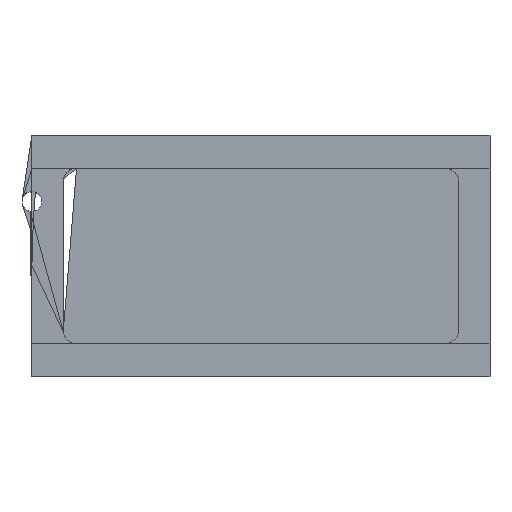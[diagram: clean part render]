
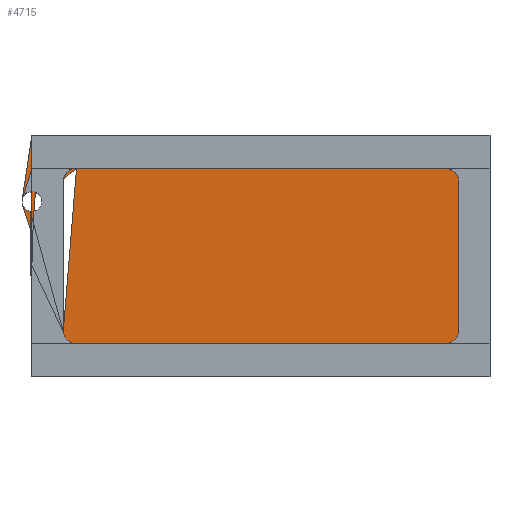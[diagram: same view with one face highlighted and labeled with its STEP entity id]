
A CAD part, top view. The second image highlights one B-rep face of the part: STEP entity #4715.
In plain terms, the highlighted planar face has unit normal (0, 0, 1) as drawn and (0, 0, -1) by its records, which use the part's own axes.
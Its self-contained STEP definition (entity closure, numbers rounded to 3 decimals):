
#4292 = CARTESIAN_POINT ( 'NONE',  ( -17.4, 9.17, 0. ) ) ;
#4293 = VERTEX_POINT ( 'NONE', #4292 ) ;
#4294 = CARTESIAN_POINT ( 'NONE',  ( -17.4, 0.75, 0. ) ) ;
#4295 = VERTEX_POINT ( 'NONE', #4294 ) ;
#4296 = CARTESIAN_POINT ( 'NONE',  ( -17.4, -9.17, 0. ) ) ;
#4297 = DIRECTION ( 'NONE',  ( 0., -1., 0. ) ) ;
#4298 = VECTOR ( 'NONE', #4297, 1000. ) ;
#4299 = LINE ( 'NONE', #4296, #4298 ) ;
#4300 = EDGE_CURVE ( 'NONE', #4293, #4295, #4299, .T. ) ;
#4472 = CARTESIAN_POINT ( 'NONE',  ( 17.4, -9.17, 0. ) ) ;
#4473 = VERTEX_POINT ( 'NONE', #4472 ) ;
#4474 = CARTESIAN_POINT ( 'NONE',  ( 17.4, 9.17, 0. ) ) ;
#4475 = VERTEX_POINT ( 'NONE', #4474 ) ;
#4476 = CARTESIAN_POINT ( 'NONE',  ( 17.4, -9.17, 0. ) ) ;
#4477 = DIRECTION ( 'NONE',  ( 0., 1., 0. ) ) ;
#4478 = VECTOR ( 'NONE', #4477, 1000. ) ;
#4479 = LINE ( 'NONE', #4476, #4478 ) ;
#4480 = EDGE_CURVE ( 'NONE', #4473, #4475, #4479, .T. ) ;
#4535 = CARTESIAN_POINT ( 'NONE',  ( -17.4, 9.17, 0. ) ) ;
#4536 = DIRECTION ( 'NONE',  ( -1., 0., 0. ) ) ;
#4537 = VECTOR ( 'NONE', #4536, 1000. ) ;
#4538 = LINE ( 'NONE', #4535, #4537 ) ;
#4539 = EDGE_CURVE ( 'NONE', #4475, #4293, #4538, .T. ) ;
#4558 = CARTESIAN_POINT ( 'NONE',  ( -17.4, -0.75, 0. ) ) ;
#4559 = VERTEX_POINT ( 'NONE', #4558 ) ;
#4566 = CARTESIAN_POINT ( 'NONE',  ( -17.4, -9.17, 0. ) ) ;
#4567 = VERTEX_POINT ( 'NONE', #4566 ) ;
#4568 = CARTESIAN_POINT ( 'NONE',  ( -17.4, -9.17, 0. ) ) ;
#4569 = DIRECTION ( 'NONE',  ( 0., -1., 0. ) ) ;
#4570 = VECTOR ( 'NONE', #4569, 1000. ) ;
#4571 = LINE ( 'NONE', #4568, #4570 ) ;
#4572 = EDGE_CURVE ( 'NONE', #4559, #4567, #4571, .T. ) ;
#4604 = CARTESIAN_POINT ( 'NONE',  ( -17.4, -9.17, 0. ) ) ;
#4605 = DIRECTION ( 'NONE',  ( 1., 0., 0. ) ) ;
#4606 = VECTOR ( 'NONE', #4605, 1000. ) ;
#4607 = LINE ( 'NONE', #4604, #4606 ) ;
#4608 = EDGE_CURVE ( 'NONE', #4567, #4473, #4607, .T. ) ;
#4626 = CARTESIAN_POINT ( 'NONE',  ( -17.4, 4.13, 0. ) ) ;
#4627 = DIRECTION ( 'NONE',  ( 0., 0., 1. ) ) ;
#4628 = DIRECTION ( 'NONE',  ( 0., -1., 0. ) ) ;
#4629 = AXIS2_PLACEMENT_3D ( 'NONE', #4626, #4627, #4628 ) ;
#4630 = CIRCLE ( 'NONE', #4629, 0.75) ;
#4631 = EDGE_CURVE ( 'NONE', #4559, #4295, #4630, .T. ) ;
#4632 = ORIENTED_EDGE ( 'NONE', *, *, #4631, .T. ) ;
#4633 = ORIENTED_EDGE ( 'NONE', *, *, #4300, .F. ) ;
#4634 = ORIENTED_EDGE ( 'NONE', *, *, #4539, .F. ) ;
#4635 = ORIENTED_EDGE ( 'NONE', *, *, #4480, .F. ) ;
#4636 = ORIENTED_EDGE ( 'NONE', *, *, #4608, .F. ) ;
#4637 = ORIENTED_EDGE ( 'NONE', *, *, #4572, .F. ) ;
#4638 = EDGE_LOOP ( 'NONE', ( #4632, #4633, #4634, #4635, #4636, #4637 ) ) ;
#4639 = FACE_OUTER_BOUND ( 'NONE', #4638, .T. ) ;
#4640 = CARTESIAN_POINT ( 'NONE',  ( 14.01, 6.67, 0. ) ) ;
#4641 = VERTEX_POINT ( 'NONE', #4640 ) ;
#4642 = CARTESIAN_POINT ( 'NONE',  ( -14.01, 6.67, 0. ) ) ;
#4643 = VERTEX_POINT ( 'NONE', #4642 ) ;
#4644 = CARTESIAN_POINT ( 'NONE',  ( 15.01, 6.67, 0. ) ) ;
#4645 = DIRECTION ( 'NONE',  ( -1., 0., 0. ) ) ;
#4646 = VECTOR ( 'NONE', #4645, 1000. ) ;
#4647 = LINE ( 'NONE', #4644, #4646 ) ;
#4648 = EDGE_CURVE ( 'NONE', #4641, #4643, #4647, .T. ) ;
#4649 = ORIENTED_EDGE ( 'NONE', *, *, #4648, .T. ) ;
#4650 = CARTESIAN_POINT ( 'NONE',  ( -15.01, 5.67, 0. ) ) ;
#4651 = VERTEX_POINT ( 'NONE', #4650 ) ;
#4652 = CARTESIAN_POINT ( 'NONE',  ( -14.01, 5.67, 0. ) ) ;
#4653 = DIRECTION ( 'NONE',  ( 0., 0., 1. ) ) ;
#4654 = DIRECTION ( 'NONE',  ( 0., 1., 0. ) ) ;
#4655 = AXIS2_PLACEMENT_3D ( 'NONE', #4652, #4653, #4654 ) ;
#4656 = CIRCLE ( 'NONE', #4655, 1.0) ;
#4657 = EDGE_CURVE ( 'NONE', #4643, #4651, #4656, .T. ) ;
#4658 = ORIENTED_EDGE ( 'NONE', *, *, #4657, .T. ) ;
#4659 = CARTESIAN_POINT ( 'NONE',  ( -15.01, -5.67, 0. ) ) ;
#4660 = VERTEX_POINT ( 'NONE', #4659 ) ;
#4661 = CARTESIAN_POINT ( 'NONE',  ( -15.01, -6.67, 0. ) ) ;
#4662 = DIRECTION ( 'NONE',  ( 0., -1., 0. ) ) ;
#4663 = VECTOR ( 'NONE', #4662, 1000. ) ;
#4664 = LINE ( 'NONE', #4661, #4663 ) ;
#4665 = EDGE_CURVE ( 'NONE', #4651, #4660, #4664, .T. ) ;
#4666 = ORIENTED_EDGE ( 'NONE', *, *, #4665, .T. ) ;
#4667 = CARTESIAN_POINT ( 'NONE',  ( -14.01, -6.67, 0. ) ) ;
#4668 = VERTEX_POINT ( 'NONE', #4667 ) ;
#4669 = CARTESIAN_POINT ( 'NONE',  ( -14.01, -5.67, 0. ) ) ;
#4670 = DIRECTION ( 'NONE',  ( 0., 0., 1. ) ) ;
#4671 = DIRECTION ( 'NONE',  ( 0., 1., 0. ) ) ;
#4672 = AXIS2_PLACEMENT_3D ( 'NONE', #4669, #4670, #4671 ) ;
#4673 = CIRCLE ( 'NONE', #4672, 1.0) ;
#4674 = EDGE_CURVE ( 'NONE', #4660, #4668, #4673, .T. ) ;
#4675 = ORIENTED_EDGE ( 'NONE', *, *, #4674, .T. ) ;
#4676 = CARTESIAN_POINT ( 'NONE',  ( 14.01, -6.67, 0. ) ) ;
#4677 = VERTEX_POINT ( 'NONE', #4676 ) ;
#4678 = CARTESIAN_POINT ( 'NONE',  ( 15.01, -6.67, 0. ) ) ;
#4679 = DIRECTION ( 'NONE',  ( 1., 0., 0. ) ) ;
#4680 = VECTOR ( 'NONE', #4679, 1000. ) ;
#4681 = LINE ( 'NONE', #4678, #4680 ) ;
#4682 = EDGE_CURVE ( 'NONE', #4668, #4677, #4681, .T. ) ;
#4683 = ORIENTED_EDGE ( 'NONE', *, *, #4682, .T. ) ;
#4684 = CARTESIAN_POINT ( 'NONE',  ( 15.01, -5.67, 0. ) ) ;
#4685 = VERTEX_POINT ( 'NONE', #4684 ) ;
#4686 = CARTESIAN_POINT ( 'NONE',  ( 14.01, -5.67, 0. ) ) ;
#4687 = DIRECTION ( 'NONE',  ( 0., 0., 1. ) ) ;
#4688 = DIRECTION ( 'NONE',  ( 0., 1., 0. ) ) ;
#4689 = AXIS2_PLACEMENT_3D ( 'NONE', #4686, #4687, #4688 ) ;
#4690 = CIRCLE ( 'NONE', #4689, 1.0) ;
#4691 = EDGE_CURVE ( 'NONE', #4677, #4685, #4690, .T. ) ;
#4692 = ORIENTED_EDGE ( 'NONE', *, *, #4691, .T. ) ;
#4693 = CARTESIAN_POINT ( 'NONE',  ( 15.01, 5.67, 0. ) ) ;
#4694 = VERTEX_POINT ( 'NONE', #4693 ) ;
#4695 = CARTESIAN_POINT ( 'NONE',  ( 15.01, -6.67, 0. ) ) ;
#4696 = DIRECTION ( 'NONE',  ( 0., 1., 0. ) ) ;
#4697 = VECTOR ( 'NONE', #4696, 1000. ) ;
#4698 = LINE ( 'NONE', #4695, #4697 ) ;
#4699 = EDGE_CURVE ( 'NONE', #4685, #4694, #4698, .T. ) ;
#4700 = ORIENTED_EDGE ( 'NONE', *, *, #4699, .T. ) ;
#4701 = CARTESIAN_POINT ( 'NONE',  ( 14.01, 5.67, 0. ) ) ;
#4702 = DIRECTION ( 'NONE',  ( 0., 0., 1. ) ) ;
#4703 = DIRECTION ( 'NONE',  ( 0., 1., 0. ) ) ;
#4704 = AXIS2_PLACEMENT_3D ( 'NONE', #4701, #4702, #4703 ) ;
#4705 = CIRCLE ( 'NONE', #4704, 1.0) ;
#4706 = EDGE_CURVE ( 'NONE', #4694, #4641, #4705, .T. ) ;
#4707 = ORIENTED_EDGE ( 'NONE', *, *, #4706, .T. ) ;
#4708 = EDGE_LOOP ( 'NONE', ( #4649, #4658, #4666, #4675, #4683, #4692, #4700, #4707 ) ) ;
#4709 = FACE_BOUND ( 'NONE', #4708, .T. ) ;
#4710 = CARTESIAN_POINT ( 'NONE',  ( 0., 0., 0. ) ) ;
#4711 = DIRECTION ( 'NONE',  ( 0., 0., -1. ) ) ;
#4712 = DIRECTION ( 'NONE',  ( 0., 1., 0. ) ) ;
#4713 = AXIS2_PLACEMENT_3D ( 'NONE', #4710, #4711, #4712 ) ;
#4714 = PLANE ( 'NONE', #4713 ) ;
#4715 = ADVANCED_FACE ( 'NONE', ( #4639, #4709 ), #4714, .T. ) ;
